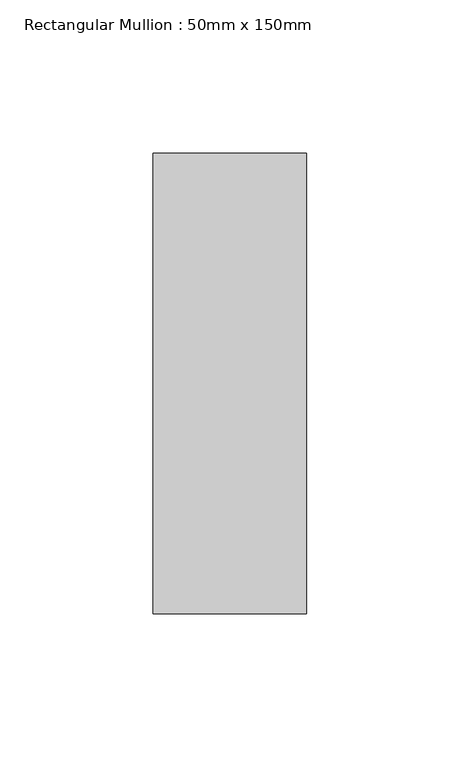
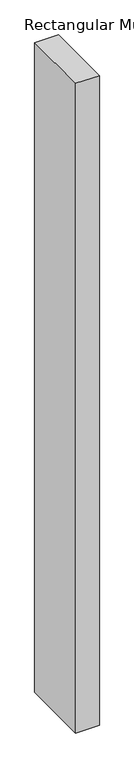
"""IFC4 building model written with IfcOpenShell, lengths in millimetres: member geometry, Rectangular Mullion : 50mm x 150mm."""

from ifc_helpers import new_model, si_unit, frame, origin, place, context, project, spatial, polyline, outline, extrude, source, transform, mapped, element, save


def rectangular_mullion_50mm_x_150mm_5226f6e8(model_context):
    return source(origin(), model_context, "Body", "SweptSolid", [
        extrude(outline(polyline([(25.0, 75.0), (25.0, -75.0), (-25.0, -75.0), (-25.0, 75.0), (25.0, 75.0)])), frame((0.0, 0.0, -1452.2476559), z_axis=(0.0, 0.0, 1.0), x_axis=(1.0, 0.0, 0.0)), (0.0, 0.0, 1.0), 1452.2476559),
    ])


if __name__ == "__main__":
    model = new_model("IFC4")
    model_context = context("Model", 3, world=origin())
    ifc_project = project(units=[si_unit("LENGTHUNIT", "METRE", prefix="MILLI")], contexts=[model_context])
    site = spatial("IfcSite", under=ifc_project)
    building = spatial("IfcBuilding", under=site)
    placement = place(None, origin())
    rectangular_mullion_50mm_x_150mm_shape = rectangular_mullion_50mm_x_150mm_5226f6e8(model_context)
    element("IfcMember", 1, ObjectType="Rectangular Mullion : 50mm x 150mm", at=placement, inside=building, context=model_context, shape_type="MappedRepresentation", body=[
        mapped(rectangular_mullion_50mm_x_150mm_shape, transform((0.0, 0.0, 0.0), x_axis=(1.0, 0.0, 0.0), y_axis=(0.0, 1.0, 0.0), z_axis=(0.0, 0.0, 1.0))),
    ])
    save(model, "model.ifc")
